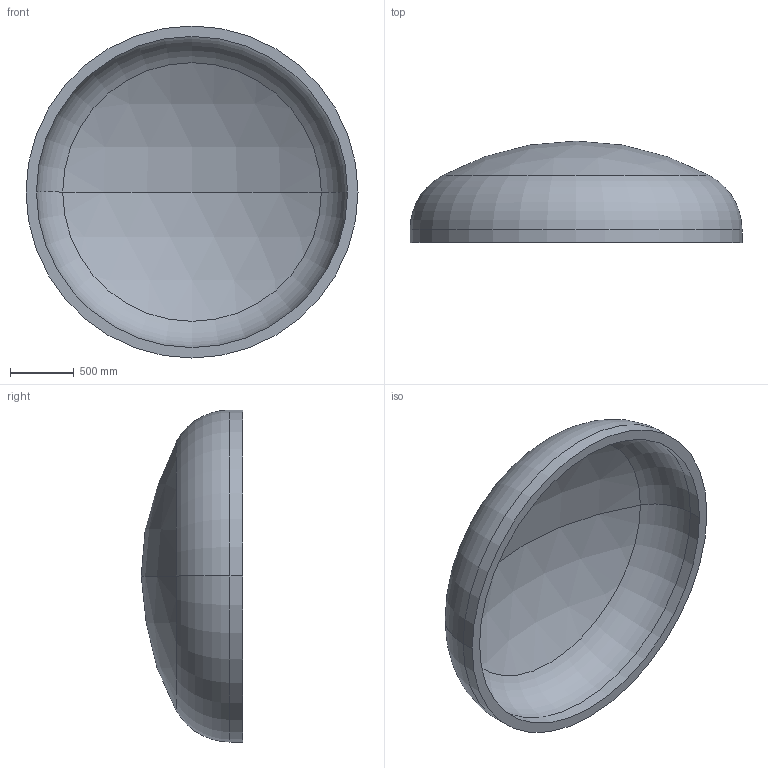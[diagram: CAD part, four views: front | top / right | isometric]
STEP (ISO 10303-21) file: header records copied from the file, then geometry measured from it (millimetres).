
FILE_DESCRIPTION (( 'STEP AP203' ), '1' );
FILE_NAME ('DIN 28013 Korbbogenform_-_Boden DIN 28013 - 2600 x 100 - I - s=82.step', '2016-07-01T16:26:07', ( '' ), ( '' ), 'SwSTEP 2.0', 'SolidWorks 2013', '' );
FILE_SCHEMA (( 'CONFIG_CONTROL_DESIGN' ));
Length unit declared in the file: millimetre
Products named in the file (1): DIN 28013 Korbbogenform_-_Boden DIN 28013 - 2600 x 100 - I - s=82
Bounding box: 2600 x 794.6 x 2600 mm (x, y, z)
Volume: 643411208 mm3; surface area: 16355697.5 mm2
Topology: 1 solids, 1 shells, 13 faces, 24 edges, 14 vertices
Faces by surface type: torus 4, cylinder 4, sphere 4, plane 1
Entity records: 407 total; most frequent: DIRECTION 72, CARTESIAN_POINT 52, ORIENTED_EDGE 48, AXIS2_PLACEMENT_3D 34, EDGE_CURVE 24, CIRCLE 20, EDGE_LOOP 14, VERTEX_POINT 14
